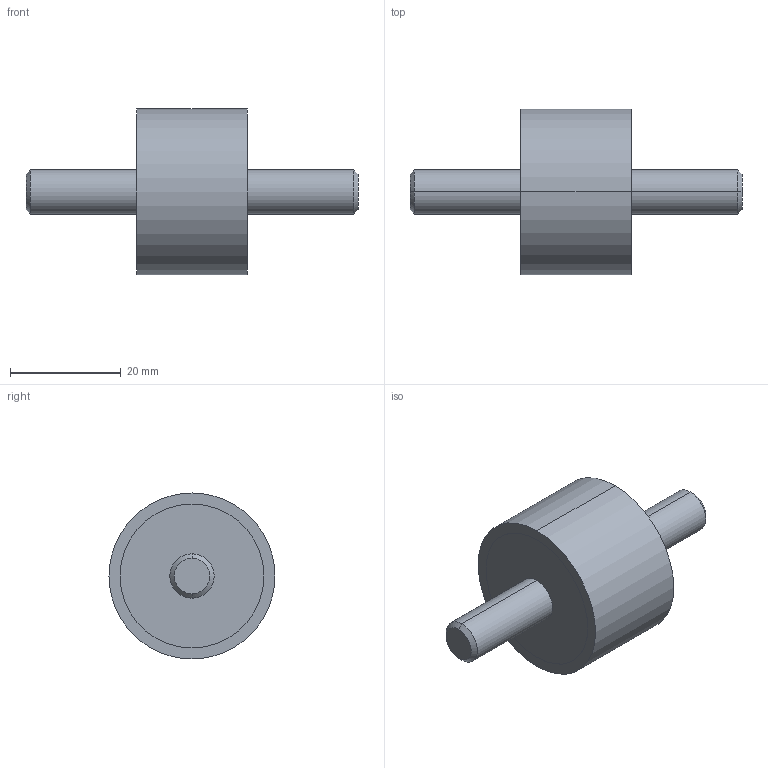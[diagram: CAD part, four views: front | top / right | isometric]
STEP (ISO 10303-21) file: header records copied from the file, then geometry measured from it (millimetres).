
FILE_DESCRIPTION (( 'STEP AP214' ), '1' );
FILE_NAME ('351-30-20-M8-SS-70.step', '2025-07-23T09:45:21', ( '' ), ( '' ), 'SwSTEP 2.0', 'SolidWorks 2022', '' );
FILE_SCHEMA (( 'AUTOMOTIVE_DESIGN' ));
Length unit declared in the file: millimetre
Products named in the file (1): 351-30-20-M8-SS-70
Bounding box: 60 x 30 x 30 mm (x, y, z)
Volume: 16123.2 mm3; surface area: 4280.9 mm2
Topology: 1 solids, 1 shells, 20 faces, 38 edges, 24 vertices
Faces by surface type: cylinder 10, plane 6, cone 4
Entity records: 636 total; most frequent: DIRECTION 104, CARTESIAN_POINT 83, ORIENTED_EDGE 76, AXIS2_PLACEMENT_3D 45, EDGE_CURVE 38, EDGE_LOOP 24, VERTEX_POINT 24, CIRCLE 24
